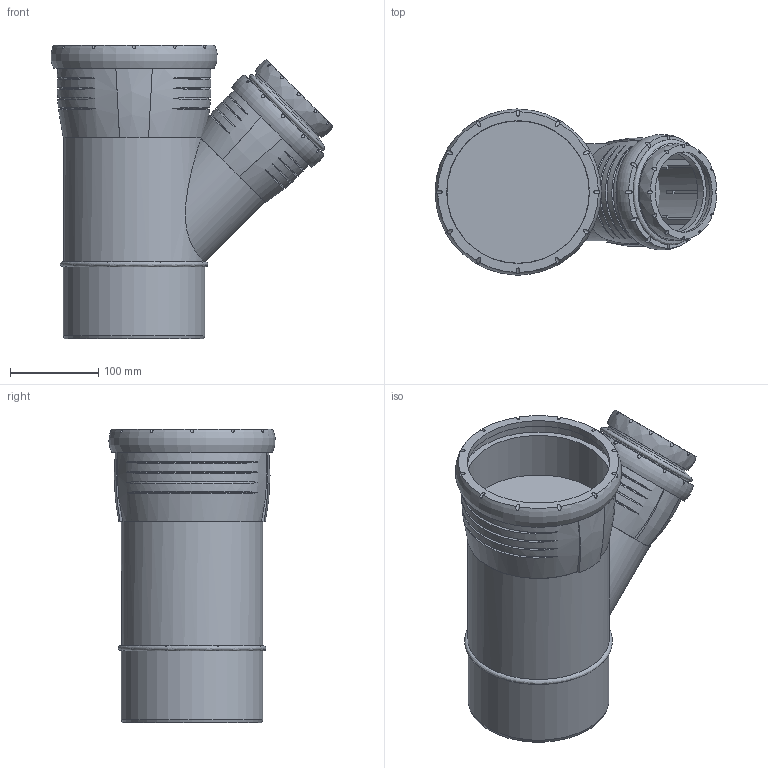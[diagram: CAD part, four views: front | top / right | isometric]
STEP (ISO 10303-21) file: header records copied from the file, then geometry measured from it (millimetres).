
FILE_DESCRIPTION(/* description */ (''),/* implementation_level */ '2;1');
FILE_NAME(/* name */ 'H:\Geberit-Teile\Export\Abzweig PP\stp\393734.stp',/* time_stamp */ '2017-02-13T13:21:12+01:00',/* author */ ('seihe2'),/* organization */ (''),/* preprocessor_version */ 'ST-DEVELOPER v15.2',/* originating_system */ 'Autodesk Inventor 2014',/* authorisation */ '');
FILE_SCHEMA (('AUTOMOTIVE_DESIGN { 1 0 10303 214 3 1 1 }'));
Length unit declared in the file: millimetre
Products named in the file (1): 393734
Bounding box: 319.28 x 188.24 x 332.87 mm (x, y, z)
Volume: 5491747.8 mm3; surface area: 555931.1 mm2
Topology: 6 solids, 6 shells, 166 faces, 410 edges, 283 vertices
Faces by surface type: cylinder 63, plane 51, bspline 48, cone 2, torus 2
Full cylindrical faces by diameter (mm): 90 x1, 90.9 x1, 91.2 x1, 100.2 x1, 100.5 x1, 101.2 x1, 110.2 x1, 111 x1, 111.3 x1, 121.5 x1, 126.565 x1, 148.25 x1, 160.25 x3, 161.2 x1, 161.7 x1, 174.9 x1
Entity records: 9990 total; most frequent: CARTESIAN_POINT 6270, ORIENTED_EDGE 754, DIRECTION 648, EDGE_CURVE 376, AXIS2_PLACEMENT_3D 292, VERTEX_POINT 272, EDGE_LOOP 220, STYLED_ITEM 170
